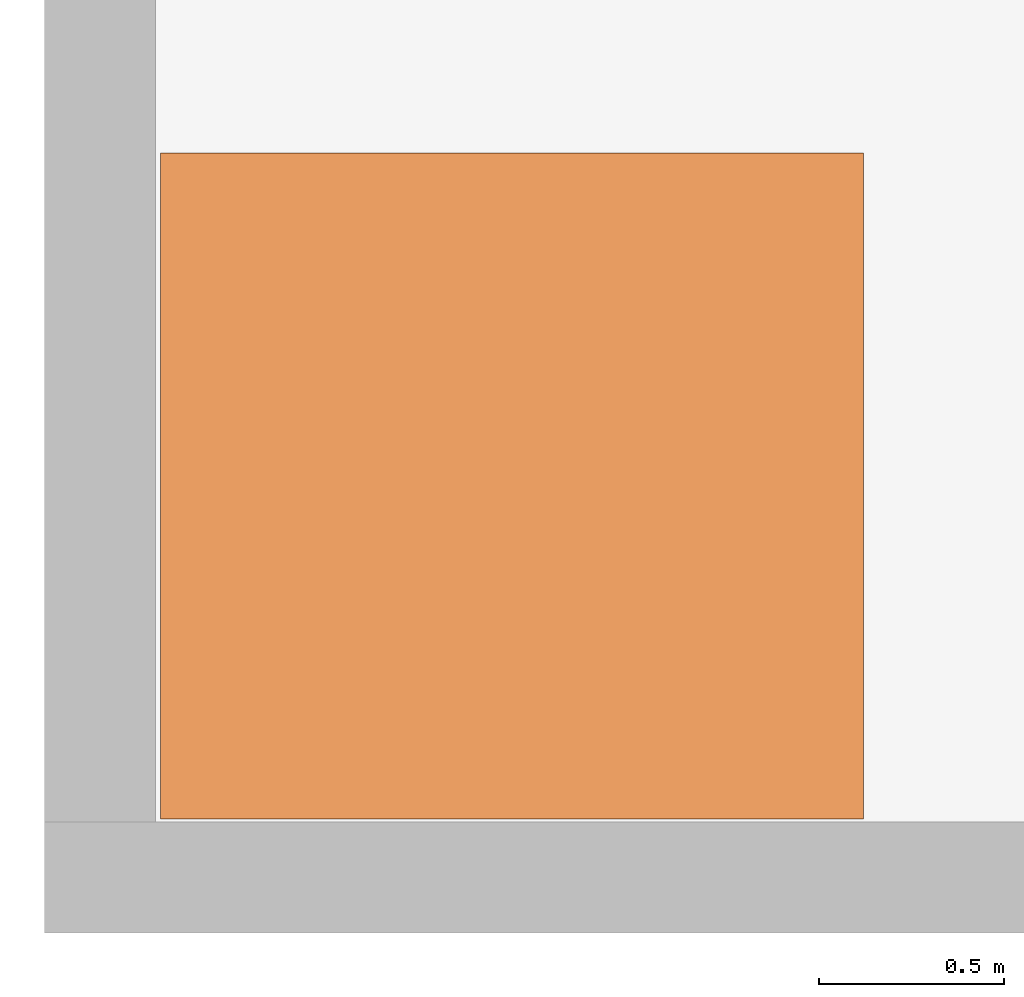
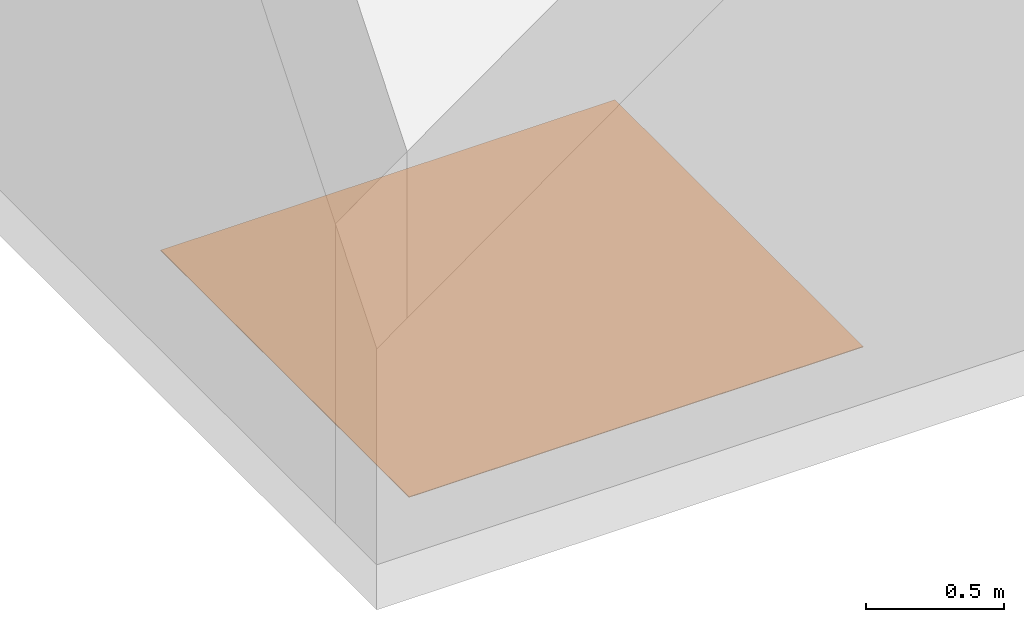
# One storey, part 12 of 12: 1 proxy.
"""IFC2X3 building model written with IfcOpenShell, lengths in millimetres."""

from ifc_helpers import new_model, entity, si_unit, converted_unit, direction, frame, frame_2d, origin, place, context, subcontext, project, spatial, rectangle, extrude, source, transform, mapped, material, type_object, type_shapes, element, save


model = new_model("IFC2X3")

# Units and contexts
model_context = context("Model", 3, precision=0.01, world=origin(), true_north=direction((6.123031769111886e-17, 1.0)))
body_context = subcontext(model_context, "Body", "Model", "MODEL_VIEW")
ifc_project = project(units=[si_unit("LENGTHUNIT", "METRE", prefix="MILLI"), converted_unit("PLANEANGLEUNIT", "DEGREE", entity("IfcPlaneAngleMeasure", 0.017453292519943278), si_unit("PLANEANGLEUNIT", "RADIAN"), dimensions=[0, 0, 0, 0, 0, 0, 0]), si_unit("AREAUNIT", "SQUARE_METRE")], contexts=[model_context])

# Site, building, storey
site_placement = place(None, frame((7776.576483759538, 118.3519876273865, 0.0)))
site = spatial("IfcSite", under=ifc_project, at=site_placement, Name="Default", CompositionType="ELEMENT")
building_placement = place(site_placement, origin())
building = spatial("IfcBuilding", under=site, at=building_placement, Name="Bygning (endres i Project Information)", CompositionType="ELEMENT")
storey_placement = place(building_placement, frame((0.0, 0.0, 11000.0)))
storey = spatial("IfcBuildingStorey", under=building, at=storey_placement, Name="Plan U2 - Arbeid", CompositionType="ELEMENT", Elevation=10999.999999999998)

# Proxy
ifc_material = material(Name="<Unnamed>")
building_element_proxy_type = type_object("IfcBuildingElementProxyType", Name="Drenspumpe:Drenspumpe", PredefinedType="NOTDEFINED", material=ifc_material)
shared_shape = source(origin(), body_context, "Body", "SweptSolid", [
    extrude(rectangle(XDim=1899.999999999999, YDim=1800.0000000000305, at=frame_2d((0.0, -2.1600499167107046e-12), x_axis=(1.0, 0.0))), frame((-14686.927789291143, 12559.801356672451, 11000.0), z_axis=(0.0, 0.0, 1.0), x_axis=(-1.0, 0.0, 0.0)), (0.0, 0.0, 1.0), 2.999999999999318),
])
type_shapes(building_element_proxy_type, [shared_shape])
proxy_placement = place(storey_placement, frame((35624.266901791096, 17393.419478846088, -11000.0)))
element("IfcBuildingElementProxy", 1, at=proxy_placement, inside=storey, type_object=building_element_proxy_type, material=ifc_material, Name="Drenspumpe:Drenspumpe", ObjectType="Drenspumpe:Drenspumpe", context=body_context, shape_type="MappedRepresentation", body=[
    mapped(shared_shape, transform((0.0, 0.0, 0.0), scale=1.0)),
])

save(model, "model.ifc")
